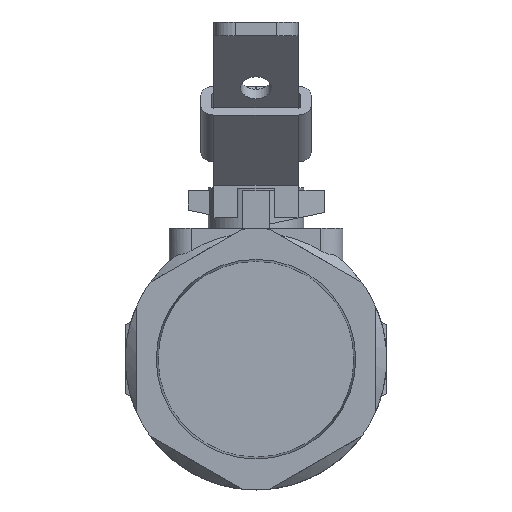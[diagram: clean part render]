
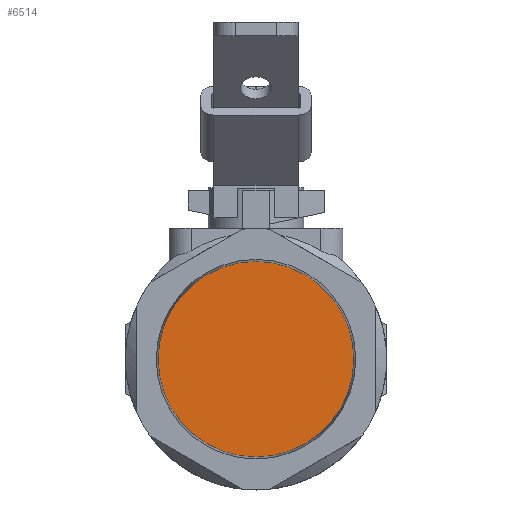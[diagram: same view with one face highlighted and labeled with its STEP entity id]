
A CAD part, left-side view. The second image highlights one B-rep face of the part: STEP entity #6514.
In plain terms, the highlighted free-form (B-spline) face has degree [1, 1] with [2, 2] control points.
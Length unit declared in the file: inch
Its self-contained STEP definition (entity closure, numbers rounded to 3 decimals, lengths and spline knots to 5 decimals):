
#6498=CARTESIAN_POINT('',(0.6969,-9.58016,0.70123));
#6499=CARTESIAN_POINT('',(0.6969,-11.83288,0.70123));
#6500=CARTESIAN_POINT('',(0.6969,-9.58016,-1.55149));
#6501=CARTESIAN_POINT('',(0.6969,-11.83288,-1.55149));
#6502=B_SPLINE_SURFACE_WITH_KNOTS('',1,1,((#6498,#6500),(#6499,#6501)),.UNSPECIFIED.,.F.,.F.,.U.,(2,2),(2,2),(0.0,2.25272),(0.0,2.25272),.UNSPECIFIED.);
#6503=CARTESIAN_POINT('',(0.6969,-9.58016,-0.42513));
#6504=VERTEX_POINT('',#6503);
#6505=CARTESIAN_POINT('',(0.6969,-10.70652,-0.42513));
#6506=DIRECTION('',(1.0,0.0,0.0));
#6507=DIRECTION('',(0.0,1.0,0.0));
#6508=AXIS2_PLACEMENT_3D('',#6505,#6506,#6507);
#6509=CIRCLE('',#6508,1.12636);
#6510=EDGE_CURVE('',#6504,#6504,#6509,.T.);
#6511=ORIENTED_EDGE('',*,*,#6510,.F.);
#6512=EDGE_LOOP('',(#6511));
#6513=FACE_OUTER_BOUND('',#6512,.T.);
#6514=ADVANCED_FACE('',(#6513),#6502,.F.);
